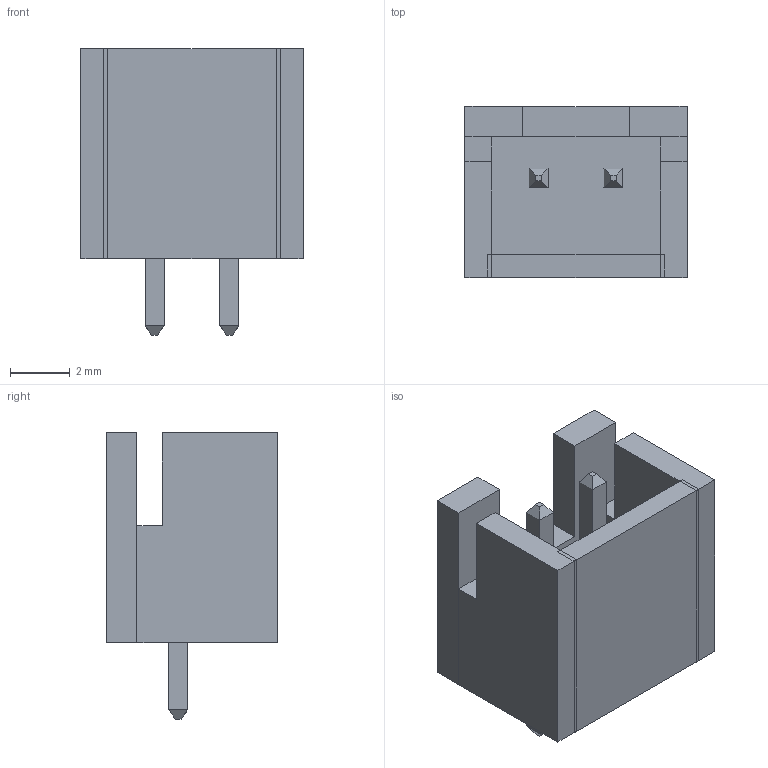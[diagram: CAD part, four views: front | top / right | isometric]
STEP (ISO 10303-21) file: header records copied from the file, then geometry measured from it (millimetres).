
FILE_DESCRIPTION(('FreeCAD Model'),'2;1');
FILE_NAME('Open CASCADE Shape Model','2026-07-31T22:05:20',('FreeCAD'),( 'FreeCAD'),'Open CASCADE STEP processor 7.9','FreeCAD','Unknown');
FILE_SCHEMA(('AUTOMOTIVE_DESIGN { 1 0 10303 214 1 1 1 1 }'));
Length unit declared in the file: millimetre
Products named in the file (1): Open CASCADE STEP translator 7.9 1
Bounding box: 7.42 x 5.7 x 9.56 mm (x, y, z)
Volume: 191.9 mm3; surface area: 525.9 mm2
Topology: 7 solids, 7 shells, 70 faces, 156 edges, 104 vertices
Faces by surface type: plane 54, bspline 16
Entity records: 1931 total; most frequent: CARTESIAN_POINT 431, ORIENTED_EDGE 312, DIRECTION 214, EDGE_CURVE 156, VERTEX_POINT 104, LINE 104, VECTOR 104, FACE_BOUND 74
